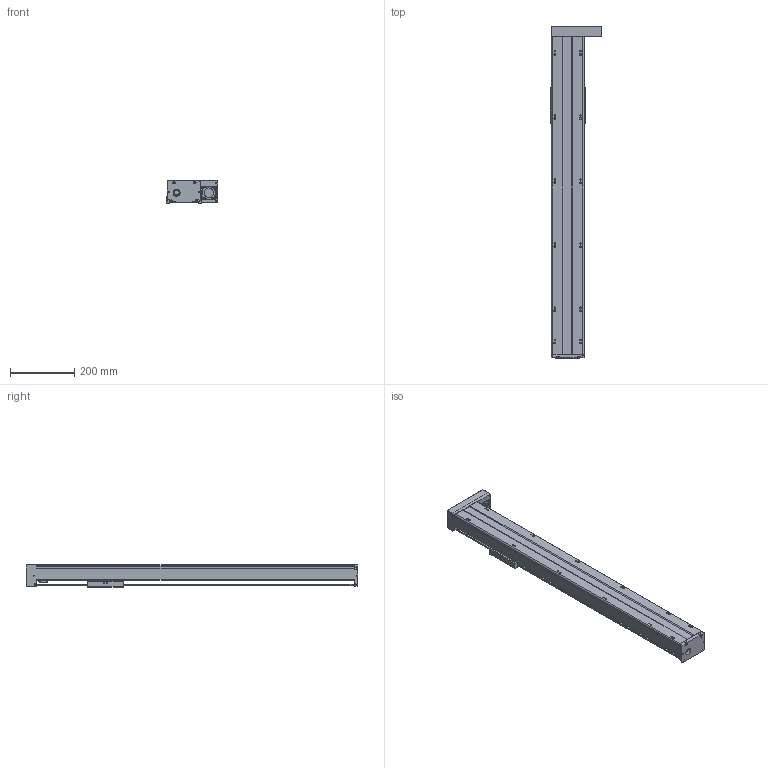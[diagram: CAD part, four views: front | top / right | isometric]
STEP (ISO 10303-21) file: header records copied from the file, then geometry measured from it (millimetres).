
FILE_DESCRIPTION(/* description */ (''),/* implementation_level */ '2;1');
FILE_NAME(/* name */ 'TKA100-FR-800_asm1.stp',/* time_stamp */ '2016-05-17T15:46:16+08:00',/* author */ (''),/* organization */ (''),/* preprocessor_version */ 'ST-DEVELOPER v15',/* originating_system */ 'SIEMENS PLM Software NX 8.5',/* authorisation */ '');
FILE_SCHEMA (('AUTOMOTIVE_DESIGN { 1 0 10303 214 3 1 1 1 }'));
Length unit declared in the file: millimetre
Products named in the file (3): 200-2; 200-1; TKA100-FR-800_asm1
Assembly tree (2 placements, depth 2):
  TKA100-FR-800_asm1
    200-1
    200-2
Bounding box: 162 x 1036 x 71 mm (x, y, z)
Volume: 2184416.1 mm3; surface area: 745040.1 mm2
Topology: 2 solids, 16 shells, 808 faces, 2105 edges, 1374 vertices
Faces by surface type: plane 324, cylinder 307, cone 123, torus 28, bspline 26
Full cylindrical faces by diameter (mm): 2.5 x6, 2.6 x8, 3.3 x11, 3.4 x4, 3.8 x8, 4.2 x21, 4.3 x4, 4.5 x6, 5 x2, 5.5 x20, 6.6 x4, 8 x4, 9 x6, 10 x13, 11 x4, 12 x6, 15.3 x1, 16 x1, 22 x1, 24 x1, 28 x2, 30 x1, 33 x1
Entity records: 29352 total; most frequent: CARTESIAN_POINT 10670, DIRECTION 3833, ORIENTED_EDGE 3616, EDGE_CURVE 1808, AXIS2_PLACEMENT_3D 1517, VERTEX_POINT 1286, EDGE_LOOP 1119, ADVANCED_FACE 808
